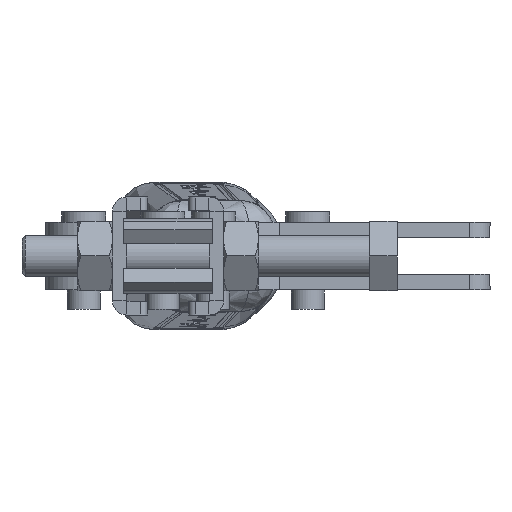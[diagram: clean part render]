
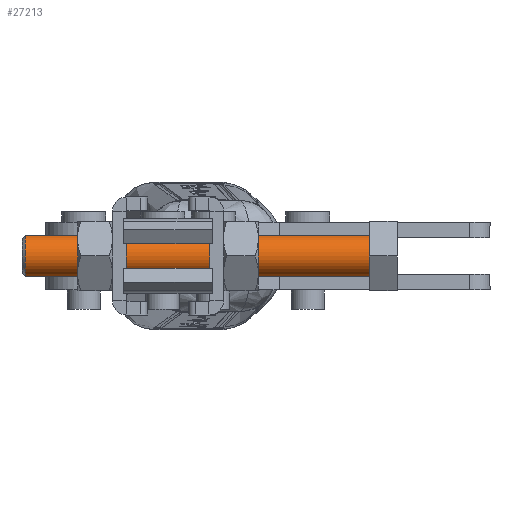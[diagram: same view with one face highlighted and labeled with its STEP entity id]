
A CAD part, left-side view. The second image highlights one B-rep face of the part: STEP entity #27213.
In plain terms, the highlighted cylindrical face has radius 3 mm (diameter 6 mm), a partial arc.
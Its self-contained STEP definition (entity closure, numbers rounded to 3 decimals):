
#338 = DIRECTION ( 'NONE',  ( 0., 0., 1. ) ) ;
#572 = CARTESIAN_POINT ( 'NONE',  ( 0., -50., -3. ) ) ;
#666 = EDGE_CURVE ( 'NONE', #15138, #31365, #21504, .T. ) ;
#808 = EDGE_CURVE ( 'NONE', #21527, #13284, #33930, .T. ) ;
#3385 = DIRECTION ( 'NONE',  ( 0., 1., 0. ) ) ;
#3590 = CARTESIAN_POINT ( 'NONE',  ( 0., 0., 3. ) ) ;
#8291 = ORIENTED_EDGE ( 'NONE', *, *, #33485, .T. ) ;
#8932 = DIRECTION ( 'NONE',  ( 0., 1., 0. ) ) ;
#10085 = CIRCLE ( 'NONE', #15729, 3. ) ;
#11968 = FACE_OUTER_BOUND ( 'NONE', #25693, .T. ) ;
#13284 = VERTEX_POINT ( 'NONE', #3590 ) ;
#13926 = CARTESIAN_POINT ( 'NONE',  ( 0., -49.5, 3. ) ) ;
#14009 = VECTOR ( 'NONE', #3385, 1000. ) ;
#15038 = ORIENTED_EDGE ( 'NONE', *, *, #666, .F. ) ;
#15138 = VERTEX_POINT ( 'NONE', #21677 ) ;
#15729 = AXIS2_PLACEMENT_3D ( 'NONE', #34196, #17226, #338 ) ;
#17226 = DIRECTION ( 'NONE',  ( 0., -1., 0. ) ) ;
#20903 = CIRCLE ( 'NONE', #20945, 3. ) ;
#20945 = AXIS2_PLACEMENT_3D ( 'NONE', #25832, #8932, #28683 ) ;
#21504 = LINE ( 'NONE', #572, #14009 ) ;
#21527 = VERTEX_POINT ( 'NONE', #13926 ) ;
#21677 = CARTESIAN_POINT ( 'NONE',  ( 0., -49.5, -3. ) ) ;
#23171 = ORIENTED_EDGE ( 'NONE', *, *, #808, .T. ) ;
#23932 = EDGE_CURVE ( 'NONE', #15138, #21527, #20903, .T. ) ;
#25196 = ORIENTED_EDGE ( 'NONE', *, *, #23932, .T. ) ;
#25693 = EDGE_LOOP ( 'NONE', ( #15038, #25196, #23171, #8291 ) ) ;
#25832 = CARTESIAN_POINT ( 'NONE',  ( 0., -49.5, 0. ) ) ;
#25877 = CARTESIAN_POINT ( 'NONE',  ( 0., -50., 3. ) ) ;
#26385 = VECTOR ( 'NONE', #28738, 1000. ) ;
#27213 = ADVANCED_FACE ( 'NONE', ( #11968 ), #32778, .T. ) ;
#28579 = AXIS2_PLACEMENT_3D ( 'NONE', #33584, #30736, #34968 ) ;
#28683 = DIRECTION ( 'NONE',  ( 0., 0., -1. ) ) ;
#28738 = DIRECTION ( 'NONE',  ( 0., 1., 0. ) ) ;
#30519 = CARTESIAN_POINT ( 'NONE',  ( 0., 0., -3. ) ) ;
#30736 = DIRECTION ( 'NONE',  ( 0., 1., 0. ) ) ;
#31365 = VERTEX_POINT ( 'NONE', #30519 ) ;
#32778 = CYLINDRICAL_SURFACE ( 'NONE', #28579, 3. ) ;
#33485 = EDGE_CURVE ( 'NONE', #13284, #31365, #10085, .T. ) ;
#33584 = CARTESIAN_POINT ( 'NONE',  ( 0., -50., 0. ) ) ;
#33930 = LINE ( 'NONE', #25877, #26385 ) ;
#34196 = CARTESIAN_POINT ( 'NONE',  ( 0., 0., 0. ) ) ;
#34968 = DIRECTION ( 'NONE',  ( 0., 0., 1. ) ) ;
